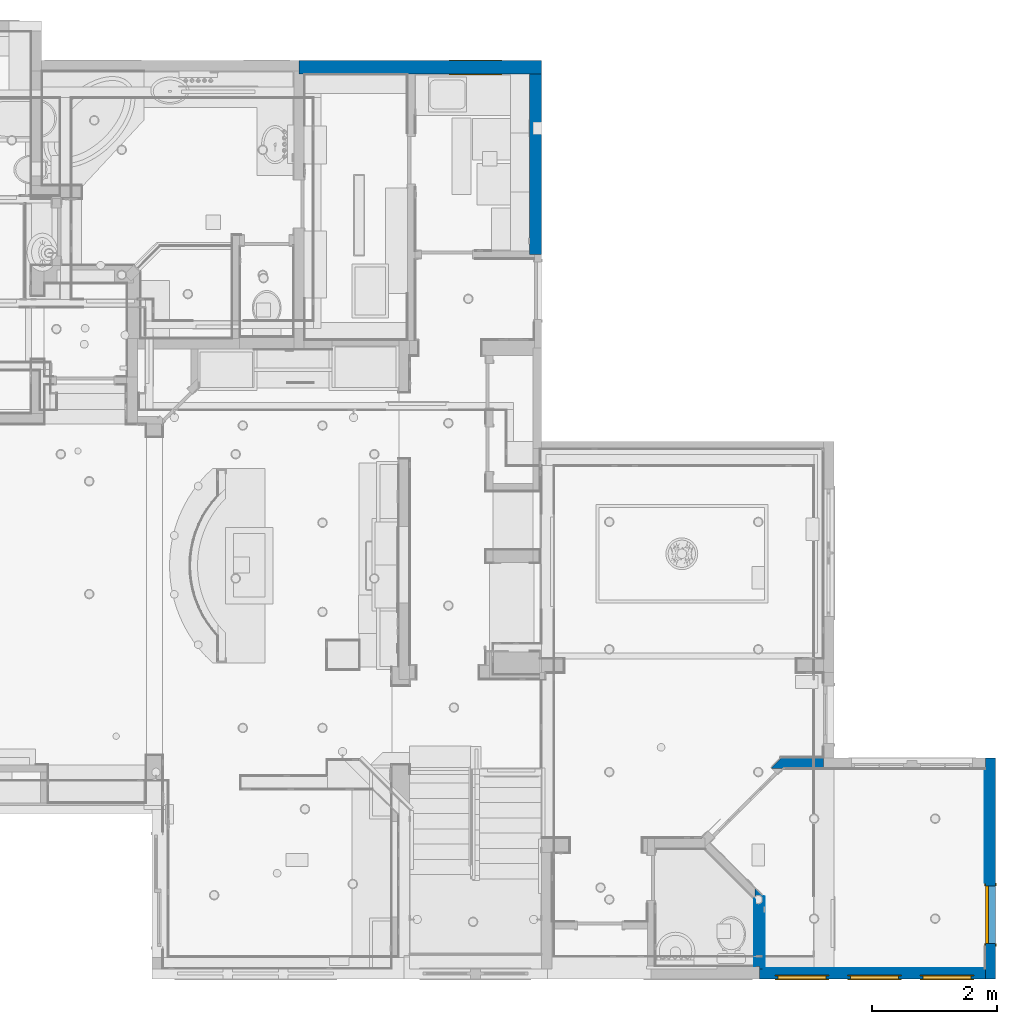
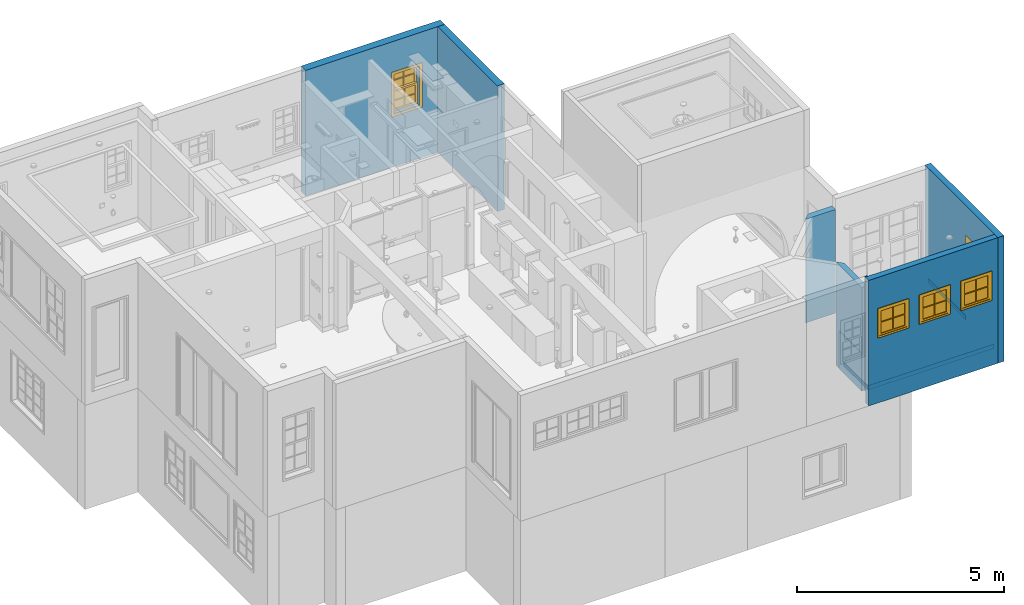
# One storey, part 14 of 81: 10 walls, 4 windows, 1 door, 10 openings.
"""IFC2X3 building model written with IfcOpenShell, lengths in feet."""

import ifcopenshell
import ifcopenshell.guid

model = None  # the IFC model being written
_history = None  # IfcOwnerHistory: only IFC2X3 demands one
_inside = {}  # id of a spatial element -> (the spatial element, [elements in it])
_under = {}  # id of a project, library or spatial element -> (it, [spatial elements below it])
_declared = {}  # id of a project -> (the project, [libraries it declares])
_typed = {}  # id of a type object -> (the type object, [elements of that type])
_made_of = {}  # id of a material, layer set ... -> (it, [elements and type objects made of it])


def new_model(schema):
    """Start an empty IFC model of exactly this schema.

    Asked for "IFC4X3", IfcOpenShell would pick the latest addendum, in which some entities
    have other attributes; the version numbers below select the first issue.
    IFC2X3 requires an IfcOwnerHistory on every rooted entity: one is made here for all.
    """
    global model, _history
    if schema == "IFC4X3":
        model = ifcopenshell.file(schema_version=(4, 3, 0, 0))
    else:
        model = ifcopenshell.file(schema=schema)
    _inside.clear()
    _under.clear()
    _declared.clear()
    _typed.clear()
    _made_of.clear()
    _history = None
    if model.schema == "IFC2X3":
        org = make("IfcOrganization", Name="unknown")
        user = make(
            "IfcPersonAndOrganization",
            ThePerson=make("IfcPerson", FamilyName="unknown"),
            TheOrganization=org,
        )
        app = make(
            "IfcApplication",
            ApplicationDeveloper=org,
            Version="unknown",
            ApplicationFullName="unknown",
            ApplicationIdentifier="unknown",
        )
        _history = make(
            "IfcOwnerHistory",
            OwningUser=user,
            OwningApplication=app,
            ChangeAction="ADDED",
            CreationDate=0,
        )
    return model


def make(cls, **values):
    """One entity of the class cls with the attributes given. An attribute that is None is left unset."""
    return model.create_entity(
        cls, **{name: value for name, value in values.items() if value is not None}
    )


def entity(cls, *values):
    """Any entity or typed value of the class cls, its attributes in the order of the schema. None: left unset."""
    e = model.create_entity(cls)
    for i, value in enumerate(values):
        if value is not None:
            e[i] = value
    return e


def rooted(cls, **values):
    """An entity with a GlobalId (a new one), such as an element, a storey or a relation."""
    return make(cls, GlobalId=ifcopenshell.guid.new(), OwnerHistory=_history, **values)


def si_unit(unit_type, name, prefix=None):
    """IfcSIUnit, for example si_unit("LENGTHUNIT", "METRE", prefix="MILLI")."""
    return make("IfcSIUnit", UnitType=unit_type, Prefix=prefix, Name=name)


def converted_unit(unit_type, name, factor, base, dimensions=None, offset=None):
    """IfcConversionBasedUnit, such as the inch: factor (a typed value) times the base unit."""
    return make(
        "IfcConversionBasedUnit"
        if offset is None
        else "IfcConversionBasedUnitWithOffset",
        ConversionOffset=offset,
        Dimensions=None
        if dimensions is None
        else entity("IfcDimensionalExponents", *dimensions),
        UnitType=unit_type,
        Name=name,
        ConversionFactor=make(
            "IfcMeasureWithUnit", ValueComponent=factor, UnitComponent=base
        ),
    )


def derived_unit(unit_type, elements):
    """IfcDerivedUnit: a product of units, each with its exponent."""
    return make(
        "IfcDerivedUnit",
        Elements=[
            make("IfcDerivedUnitElement", Unit=unit, Exponent=power)
            for unit, power in elements
        ],
        UnitType=unit_type,
    )


def assignment(units):
    """IfcUnitAssignment: the units of a project."""
    return None if units is None else make("IfcUnitAssignment", Units=units)


def point(xyz):
    """IfcCartesianPoint."""
    return None if xyz is None else make("IfcCartesianPoint", Coordinates=xyz)


def direction(xyz):
    """IfcDirection."""
    return None if xyz is None else make("IfcDirection", DirectionRatios=xyz)


def frame(location, z_axis=None, x_axis=None):
    """IfcAxis2Placement3D, a coordinate frame: its origin and axes. An axis left out is left unset."""
    return make(
        "IfcAxis2Placement3D",
        Location=point(location),
        Axis=direction(z_axis),
        RefDirection=direction(x_axis),
    )


def frame_2d(location, x_axis=None):
    """IfcAxis2Placement2D, a coordinate frame in the plane: its origin and x axis."""
    return make(
        "IfcAxis2Placement2D", Location=point(location), RefDirection=direction(x_axis)
    )


def origin():
    """The frame at (0, 0, 0) with its axes left unset."""
    return frame((0.0, 0.0, 0.0))


def origin_2d_with_axis():
    """The frame at (0, 0) in the plane with the x axis (1, 0) written out."""
    return frame_2d((0.0, 0.0), x_axis=(1.0, 0.0))


def place(relative_to, where):
    """IfcLocalPlacement: puts the frame where relative to a parent placement (None: the world)."""
    return make(
        "IfcLocalPlacement", PlacementRelTo=relative_to, RelativePlacement=where
    )


def context(
    kind, dimensions, precision=None, world=None, true_north=None, identifier=None
):
    """IfcGeometricRepresentationContext, for example the 3D "Model" context."""
    return make(
        "IfcGeometricRepresentationContext",
        ContextIdentifier=identifier,
        ContextType=kind,
        CoordinateSpaceDimension=dimensions,
        Precision=precision,
        WorldCoordinateSystem=world,
        TrueNorth=true_north,
    )


def subcontext(parent, identifier, kind, view, scale=None):
    """IfcGeometricRepresentationSubContext, for example "Body" below "Model"."""
    return make(
        "IfcGeometricRepresentationSubContext",
        ContextIdentifier=identifier,
        ContextType=kind,
        ParentContext=parent,
        TargetScale=scale,
        TargetView=view,
    )


def project(units=None, contexts=None):
    """IfcProject with its units and contexts."""
    return rooted(
        "IfcProject",
        Name="project",
        RepresentationContexts=contexts,
        UnitsInContext=assignment(units),
    )


def spatial(cls, under=None, at=None, **own):
    """A site, building, storey or space (cls), placed at a placement, below another one or the project."""
    s = rooted(cls, ObjectPlacement=at, **own)
    if under is not None:
        _under.setdefault(under.id(), (under, []))[1].append(s)
    return s


def polyline(points):
    """IfcPolyline through the points."""
    return make("IfcPolyline", Points=[point(p) for p in points])


def profile(cls, at=None, kind="AREA", **sizes):
    """A parametric profile (cls). Its sizes go by their IFC names, for example OverallWidth=200.0."""
    return make(cls, ProfileType=kind, Position=at, **sizes)


def rectangle(**sizes):
    """IfcRectangleProfileDef."""
    return profile("IfcRectangleProfileDef", **sizes)


def outline(outer, holes=None, kind="AREA"):
    """IfcArbitraryClosedProfileDef: a profile drawn as a closed curve; with holes, ...WithVoids."""
    if holes is None:
        return make("IfcArbitraryClosedProfileDef", ProfileType=kind, OuterCurve=outer)
    return make(
        "IfcArbitraryProfileDefWithVoids",
        ProfileType=kind,
        OuterCurve=outer,
        InnerCurves=holes,
    )


def extrude(swept, where, along, depth):
    """IfcExtrudedAreaSolid: the profile swept, set in the frame where, extruded along a direction by depth."""
    return make(
        "IfcExtrudedAreaSolid",
        SweptArea=swept,
        Position=where,
        ExtrudedDirection=direction(along),
        Depth=depth,
    )


def clip(a, b, op="DIFFERENCE"):
    """IfcBooleanClippingResult: the solid a cut by the half space b."""
    return make(
        "IfcBooleanClippingResult", Operator=op, FirstOperand=a, SecondOperand=b
    )


def bounded_halfspace(plane, agree, where, boundary):
    """IfcPolygonalBoundedHalfSpace: a half space limited to a polygon's prism."""
    return make(
        "IfcPolygonalBoundedHalfSpace",
        BaseSurface=make("IfcPlane", Position=plane),
        AgreementFlag=agree,
        Position=where,
        PolygonalBoundary=boundary,
    )


def shape(context_of_items, identifier, shape_type, items):
    """IfcShapeRepresentation: the items that make up one representation, for example the "Body"."""
    return make(
        "IfcShapeRepresentation",
        ContextOfItems=context_of_items,
        RepresentationIdentifier=identifier,
        RepresentationType=shape_type,
        Items=items,
    )


def source(mapping_origin, context_of_items, identifier, shape_type, items):
    """IfcRepresentationMap: a shape defined once, which mapped items show again and again."""
    return make(
        "IfcRepresentationMap",
        MappingOrigin=mapping_origin,
        MappedRepresentation=shape(context_of_items, identifier, shape_type, items),
    )


def transform(
    local_origin,
    x_axis=None,
    y_axis=None,
    z_axis=None,
    scale=None,
    scale2=None,
    scale3=None,
    uniform=True,
):
    """IfcCartesianTransformationOperator3D, or its non-uniform kind. x_axis, y_axis, z_axis: its Axis1, 2, 3."""
    if uniform:
        return make(
            "IfcCartesianTransformationOperator3D",
            Axis1=direction(x_axis),
            Axis2=direction(y_axis),
            LocalOrigin=point(local_origin),
            Scale=scale,
            Axis3=direction(z_axis),
        )
    return make(
        "IfcCartesianTransformationOperator3DnonUniform",
        Axis1=direction(x_axis),
        Axis2=direction(y_axis),
        LocalOrigin=point(local_origin),
        Scale=scale,
        Axis3=direction(z_axis),
        Scale2=scale2,
        Scale3=scale3,
    )


def mapped(mapping_source, mapping_target):
    """IfcMappedItem: shows the shape of a source again, moved by a transform."""
    return make(
        "IfcMappedItem", MappingSource=mapping_source, MappingTarget=mapping_target
    )


def material(Name=None, Category=None):
    """IfcMaterial."""
    return make("IfcMaterial", Name=Name, Category=Category)


def material_list(materials):
    """IfcMaterialList."""
    return make("IfcMaterialList", Materials=materials)


def layer(
    of_material, thickness, ventilated=None, Name=None, Category=None, Priority=None
):
    """IfcMaterialLayer: one layer of a wall or slab, of a material (None: an air gap)."""
    return make(
        "IfcMaterialLayer",
        Material=of_material,
        LayerThickness=thickness,
        IsVentilated=ventilated,
        Name=Name,
        Category=Category,
        Priority=Priority,
    )


def layer_set(layers, Name=None):
    """IfcMaterialLayerSet."""
    return make("IfcMaterialLayerSet", MaterialLayers=layers, LayerSetName=Name)


def layer_usage(for_layer_set, set_direction, sense, offset, extent=None):
    """IfcMaterialLayerSetUsage: how a layer set lies in its element."""
    return make(
        "IfcMaterialLayerSetUsage",
        ForLayerSet=for_layer_set,
        LayerSetDirection=set_direction,
        DirectionSense=sense,
        OffsetFromReferenceLine=offset,
        ReferenceExtent=extent,
    )


def made_of(thing, what):
    """Note that an element or type object is made of a material, layer set ...; save() writes the relation."""
    if what is not None:
        _made_of.setdefault(what.id(), (what, []))[1].append(thing)
    return thing


def type_object(cls, material=None, **own):
    """A type object (cls), such as IfcWallType, which elements share."""
    return made_of(rooted(cls, **own), material)


def type_shapes(of_type, sources):
    """Give a type object the sources (RepresentationMaps) that its elements show as mapped items."""
    of_type.RepresentationMaps = sources


def element(
    cls,
    number,
    at=None,
    inside=None,
    cuts=None,
    type_object=None,
    material=None,
    context=None,
    identifier="Body",
    shape_type=None,
    held_by="IfcProductDefinitionShape",
    body=None,
    shapes=None,
    **own,
):
    """One element of the class cls, such as IfcWall. Its Tag is "e" and its number.

    at: its placement. inside: the storey or other place that contains it. cuts: it is an
    opening in that element (IfcRelVoidsElement). A single representation is given by context,
    identifier, shape_type and body (its items); several are given by shapes. held_by: the class
    of the entity that holds the representations. save() writes the other relations.
    """
    e = rooted(cls, Tag="e%d" % number, ObjectPlacement=at, **own)
    if body is not None:
        shapes = [shape(context, identifier, shape_type, body)]
    if shapes is not None:
        e.Representation = make(held_by, Representations=shapes)
    if inside is not None:
        _inside.setdefault(inside.id(), (inside, []))[1].append(e)
    if cuts is not None:
        rooted(
            "IfcRelVoidsElement", RelatingBuildingElement=cuts, RelatedOpeningElement=e
        )
    if type_object is not None:
        _typed.setdefault(type_object.id(), (type_object, []))[1].append(e)
    return made_of(e, material)


def fill(opening, filler):
    """IfcRelFillsElement: the door or window that sits in an opening."""
    return rooted(
        "IfcRelFillsElement",
        RelatingOpeningElement=opening,
        RelatedBuildingElement=filler,
    )


def aggregate(whole, parts):
    """IfcRelAggregates: a whole, such as a stair, and the parts it consists of."""
    return rooted("IfcRelAggregates", RelatingObject=whole, RelatedObjects=parts)


def save(model, path):
    """Write the relations noted so far, then the file.

    IfcRelAggregates (storeys below a building ...), IfcRelContainedInSpatialStructure (elements
    in a storey), IfcRelDefinesByType, IfcRelAssociatesMaterial and IfcRelDeclares: one each for
    every whole, place, type object, material and project.
    """
    for whole, parts in _under.values():
        aggregate(whole, parts)
    for where, things in _inside.values():
        rooted(
            "IfcRelContainedInSpatialStructure",
            RelatedElements=things,
            RelatingStructure=where,
        )
    for kind, things in _typed.values():
        rooted("IfcRelDefinesByType", RelatedObjects=things, RelatingType=kind)
    for what, things in _made_of.values():
        rooted("IfcRelAssociatesMaterial", RelatedObjects=things, RelatingMaterial=what)
    for by, libraries in _declared.values():
        rooted("IfcRelDeclares", RelatingContext=by, RelatedDefinitions=libraries)
    model.write(path)


model = new_model("IFC2X3")

# Units and contexts
model_context = context("Model", 3, precision=0.0001, world=origin(), true_north=direction((6.12303176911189e-17, 1.0)))
body_context = subcontext(model_context, "Body", "Model", "MODEL_VIEW")
ifc_project = project(units=[converted_unit("LENGTHUNIT", "FOOT", entity("IfcRatioMeasure", 0.3048), si_unit("LENGTHUNIT", "METRE"), dimensions=[1, 0, 0, 0, 0, 0, 0]), converted_unit("AREAUNIT", "SQUARE FOOT", entity("IfcRatioMeasure", 0.09290304), si_unit("AREAUNIT", "SQUARE_METRE"), dimensions=[2, 0, 0, 0, 0, 0, 0]), converted_unit("VOLUMEUNIT", "CUBIC FOOT", entity("IfcRatioMeasure", 0.028316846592), si_unit("VOLUMEUNIT", "CUBIC_METRE"), dimensions=[3, 0, 0, 0, 0, 0, 0]), converted_unit("PLANEANGLEUNIT", "DEGREE", entity("IfcRatioMeasure", 0.0174532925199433), si_unit("PLANEANGLEUNIT", "RADIAN"), dimensions=[0, 0, 0, 0, 0, 0, 0]), si_unit("MASSUNIT", "GRAM", prefix="KILO"), derived_unit("MASSDENSITYUNIT", [(si_unit("MASSUNIT", "GRAM", prefix="KILO"), 1), (si_unit("LENGTHUNIT", "METRE"), -3)]), derived_unit("MOMENTOFINERTIAUNIT", [(si_unit("LENGTHUNIT", "METRE"), 4)]), si_unit("TIMEUNIT", "SECOND"), si_unit("FREQUENCYUNIT", "HERTZ"), si_unit("THERMODYNAMICTEMPERATUREUNIT", "DEGREE_CELSIUS"), derived_unit("THERMALTRANSMITTANCEUNIT", [(si_unit("MASSUNIT", "GRAM", prefix="KILO"), 1), (si_unit("THERMODYNAMICTEMPERATUREUNIT", "KELVIN"), -1), (si_unit("TIMEUNIT", "SECOND"), -3)]), derived_unit("VOLUMETRICFLOWRATEUNIT", [(si_unit("LENGTHUNIT", "METRE"), 3), (si_unit("TIMEUNIT", "SECOND"), -1)]), si_unit("ELECTRICCURRENTUNIT", "AMPERE"), si_unit("ELECTRICVOLTAGEUNIT", "VOLT"), si_unit("POWERUNIT", "WATT"), si_unit("FORCEUNIT", "NEWTON"), si_unit("ILLUMINANCEUNIT", "LUX"), si_unit("LUMINOUSFLUXUNIT", "LUMEN"), si_unit("LUMINOUSINTENSITYUNIT", "CANDELA"), derived_unit("USERDEFINED", [(si_unit("MASSUNIT", "GRAM", prefix="KILO"), -1), (si_unit("LENGTHUNIT", "METRE"), -2), (si_unit("TIMEUNIT", "SECOND"), 3), (si_unit("LUMINOUSFLUXUNIT", "LUMEN"), 1)]), derived_unit("LINEARVELOCITYUNIT", [(si_unit("LENGTHUNIT", "METRE"), 1), (si_unit("TIMEUNIT", "SECOND"), -1)]), si_unit("PRESSUREUNIT", "PASCAL"), derived_unit("USERDEFINED", [(si_unit("LENGTHUNIT", "METRE"), -2), (si_unit("MASSUNIT", "GRAM", prefix="KILO"), 1), (si_unit("TIMEUNIT", "SECOND"), -2)]), derived_unit("LINEARFORCEUNIT", [(si_unit("MASSUNIT", "GRAM", prefix="KILO"), 1), (si_unit("LENGTHUNIT", "METRE"), 1), (si_unit("TIMEUNIT", "SECOND"), -2), (si_unit("LENGTHUNIT", "METRE"), -1)]), derived_unit("PLANARFORCEUNIT", [(si_unit("MASSUNIT", "GRAM", prefix="KILO"), 1), (si_unit("LENGTHUNIT", "METRE"), 1), (si_unit("TIMEUNIT", "SECOND"), -2), (si_unit("LENGTHUNIT", "METRE"), -2)])], contexts=[model_context])

# Site, building, storey
site_placement = place(None, origin())
site = spatial("IfcSite", under=ifc_project, at=site_placement, Name="Default", CompositionType="ELEMENT")
building_placement = place(site_placement, origin())
building = spatial("IfcBuilding", under=site, at=building_placement, CompositionType="ELEMENT")
storey_placement = place(building_placement, origin())
storey = spatial("IfcBuildingStorey", under=building, at=storey_placement, Name="First floor", CompositionType="ELEMENT", Elevation=0.0)

# Wall, opening, door
ifc_material_1 = material(Name="Default New Material")
ifc_layer_1 = layer(ifc_material_1, 0.541666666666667)
ifc_layer_set_1 = layer_set([ifc_layer_1], Name="Basic Wall:Wall_6.5\"")
ifc_layer_usage_1 = layer_usage(ifc_layer_set_1, "AXIS2", "NEGATIVE", 0.270833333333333)
wall_type_1 = type_object("IfcWallType", Name="Basic Wall:Wall_6.5\"", PredefinedType="STANDARD", material=ifc_layer_set_1)
wall_1_placement = place(storey_placement, frame((43.8541666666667, 11.5625, 9.54166666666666), z_axis=(0.0, 0.0, 1.0), x_axis=(0.0, -1.0, 0.0)))
wall_1 = element("IfcWallStandardCase", 1, at=wall_1_placement, inside=storey, type_object=wall_type_1, material=ifc_layer_usage_1, Name="Basic Wall:Wall_6.5\"", ObjectType="Basic Wall:Wall_6.5\"", context=body_context, shape_type="SweptSolid", body=[
    extrude(rectangle(XDim=11.5625, YDim=0.541666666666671, at=frame_2d((5.78125000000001, 7.21644966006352e-16), x_axis=(-1.0, 0.0))), origin(), (0.0, 0.0, 1.0), 12.125),
])
opening_1_placement = place(wall_1_placement, frame((9.68750000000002, 0.27083333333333, 1.125)))
opening_1 = element("IfcOpeningElement", 2, at=opening_1_placement, cuts=wall_1, Name="Door_1:3'-0\" X 8'-0\":1", ObjectType="Opening", context=body_context, shape_type="SweptSolid", body=[
    extrude(rectangle(XDim=3.0, YDim=8.0, at=frame_2d((4.0, 1.5), x_axis=(0.0, -1.0))), frame((0.0, 0.0, 0.0), z_axis=(0.0, -1.0, 0.0), x_axis=(0.0, 0.0, 1.0)), (0.0, 0.0, 1.0), 0.541666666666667),
])
ifc_material_list_1 = material_list([ifc_material_1, ifc_material_1])
door_style = type_object("IfcDoorStyle", Name="Door_1:3'-0\" X 8'-0\"", ConstructionType="NOTDEFINED", OperationType="SINGLE_SWING_LEFT", ParameterTakesPrecedence=False, Sizeable=False, material=ifc_material_list_1)
shared_shape_1 = source(origin(), body_context, "Body", "SweptSolid", [
    extrude(outline(polyline([(-1.66666666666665, -4.125), (1.66666666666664, -4.125), (1.66666666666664, 4.04166666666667), (1.50000000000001, 4.04166666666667), (1.50000000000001, -3.95833333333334), (-1.49999999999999, -3.95833333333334), (-1.49999999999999, 4.04166666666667), (-1.66666666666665, 4.04166666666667), (-1.66666666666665, -4.125)])), frame((1.50000000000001, 0.583333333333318, 4.04166666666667), z_axis=(0.0, -1.0, 0.0), x_axis=(-1.0, 0.0, 0.0)), (0.0, 0.0, 1.0), 0.0416666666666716),
    extrude(outline(polyline([(-4.125, -1.66666666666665), (4.04166666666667, -1.66666666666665), (4.04166666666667, -1.49999999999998), (-3.95833333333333, -1.49999999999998), (-3.95833333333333, 1.49999999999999), (4.04166666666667, 1.49999999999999), (4.04166666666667, 1.66666666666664), (-4.125, 1.66666666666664), (-4.125, -1.66666666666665)])), frame((1.50000000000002, 0.0, 4.04166666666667), z_axis=(0.0, -1.0, 0.0), x_axis=(0.0, 0.0, -1.0)), (0.0, 0.0, 1.0), 0.0416666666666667),
    extrude(rectangle(XDim=3.0, YDim=0.166666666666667, at=origin_2d_with_axis()), frame((1.5, 0.458333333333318, 0.0)), (0.0, 0.0, 1.0), 8.0),
])
type_shapes(door_style, [shared_shape_1])
door_placement = place(opening_1_placement, frame((0.0, 0.0, 0.0), z_axis=(0.0, 0.0, 1.0), x_axis=(-1.0, 0.0, 0.0)))
door = element("IfcDoor", 3, at=door_placement, inside=storey, type_object=door_style, material=ifc_material_1, Name="Door_1:3'-0\" X 8'-0\"", ObjectType="Door_1:3'-0\" X 8'-0\"", OverallHeight=8.0, OverallWidth=3.0, context=body_context, shape_type="MappedRepresentation", body=[
    mapped(shared_shape_1, transform((0.0, 0.0, 0.0), scale=1.0)),
])
fill(opening_1, door)

# Wall, openings, windows
ifc_layer_usage_2 = layer_usage(ifc_layer_set_1, "AXIS2", "NEGATIVE", 0.270833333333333)
wall_2_placement = place(storey_placement, frame((43.5833333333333, 0.270833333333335, 9.54166666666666), z_axis=(0.0, 0.0, 1.0), x_axis=(-1.0, 0.0, 0.0)))
wall_2 = element("IfcWallStandardCase", 4, at=wall_2_placement, inside=storey, type_object=wall_type_1, material=ifc_layer_usage_2, Name="Basic Wall:Wall_6.5\"", ObjectType="Basic Wall:Wall_6.5\"", context=body_context, shape_type="SweptSolid", body=[
    extrude(rectangle(XDim=11.8125, YDim=0.541666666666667, at=frame_2d((5.90625, -2.77555756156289e-17), x_axis=(-1.0, 0.0))), origin(), (0.0, 0.0, 1.0), 12.125),
])
opening_2_placement = place(wall_2_placement, origin())
element("IfcOpeningElement", 5, at=opening_2_placement, cuts=wall_2, Name="Basic Wall:Wall_6.5\"", ObjectType="Recess", context=body_context, shape_type="SweptSolid", body=[
    extrude(rectangle(XDim=3.16666666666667, YDim=3.16666666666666, at=frame_2d((-8.88178419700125e-16, -3.5527136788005e-15), x_axis=(1.0, 0.0))), frame((5.79166666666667, -0.270833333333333, 7.70833333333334), z_axis=(0.0, 1.0, 0.0), x_axis=(0.0, 0.0, 1.0)), (0.0, 0.0, 1.0), 0.375),
])
opening_3_placement = place(wall_2_placement, origin())
element("IfcOpeningElement", 6, at=opening_3_placement, cuts=wall_2, Name="Basic Wall:Wall_6.5\"", ObjectType="Recess", context=body_context, shape_type="SweptSolid", body=[
    extrude(rectangle(XDim=3.16666666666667, YDim=3.16666666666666, at=frame_2d((3.5527136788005e-15, -8.88178419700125e-16), x_axis=(0.0, 1.0))), frame((9.58333333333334, -0.270833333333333, 7.70833333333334), z_axis=(0.0, 1.0, 0.0), x_axis=(-1.0, 0.0, 0.0)), (0.0, 0.0, 1.0), 0.375),
])
opening_4_placement = place(wall_2_placement, origin())
element("IfcOpeningElement", 7, at=opening_4_placement, cuts=wall_2, Name="Basic Wall:Wall_6.5\"", ObjectType="Recess", context=body_context, shape_type="SweptSolid", body=[
    extrude(rectangle(XDim=3.16666666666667, YDim=3.16666666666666, at=frame_2d((-3.5527136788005e-15, 8.88178419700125e-16), x_axis=(0.0, 1.0))), frame((2.0, -0.270833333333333, 7.70833333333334), z_axis=(0.0, 1.0, 0.0), x_axis=(1.0, 0.0, 0.0)), (0.0, 0.0, 1.0), 0.375),
])
opening_5_placement = place(wall_2_placement, frame((0.749999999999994, -0.270833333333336, 6.45833333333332)))
opening_5 = element("IfcOpeningElement", 8, at=opening_5_placement, cuts=wall_2, Name="Window_5:2'-6\" X 2'-6\":1", ObjectType="Opening", context=body_context, shape_type="SweptSolid", body=[
    extrude(rectangle(XDim=2.5, YDim=2.5, at=frame_2d((1.25, 1.25), x_axis=(-1.0, 0.0))), frame((0.0, 0.0, 0.0), z_axis=(0.0, 1.0, 0.0), x_axis=(0.0, 0.0, 1.0)), (0.0, 0.0, 1.0), 0.541666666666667),
])
opening_6_placement = place(wall_2_placement, frame((4.54166666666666, -0.270833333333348, 6.45833333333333)))
opening_6 = element("IfcOpeningElement", 9, at=opening_6_placement, cuts=wall_2, Name="Window_5:2'-6\" X 2'-6\":1", ObjectType="Opening", context=body_context, shape_type="SweptSolid", body=[
    extrude(rectangle(XDim=2.5, YDim=2.5, at=frame_2d((1.25, 1.25), x_axis=(-1.0, 0.0))), frame((0.0, 0.0, 0.0), z_axis=(0.0, 1.0, 0.0), x_axis=(0.0, 0.0, 1.0)), (0.0, 0.0, 1.0), 0.541666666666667),
])
opening_7_placement = place(wall_2_placement, frame((8.33333333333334, -0.27083333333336, 6.45833333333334)))
opening_7 = element("IfcOpeningElement", 10, at=opening_7_placement, cuts=wall_2, Name="Window_5:2'-6\" X 2'-6\":1", ObjectType="Opening", context=body_context, shape_type="SweptSolid", body=[
    extrude(rectangle(XDim=2.5, YDim=2.5, at=frame_2d((1.25, 1.25), x_axis=(-1.0, 0.0))), frame((0.0, 0.0, 0.0), z_axis=(0.0, 1.0, 0.0), x_axis=(0.0, 0.0, 1.0)), (0.0, 0.0, 1.0), 0.541666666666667),
])
ifc_material_2 = material(Name="Glass")
ifc_material_list_2 = material_list([ifc_material_2, ifc_material_1])
window_style_1 = type_object("IfcWindowStyle", Name="Window_5:2'-6\" X 2'-6\"", ConstructionType="NOTDEFINED", OperationType="NOTDEFINED", ParameterTakesPrecedence=False, Sizeable=False, material=ifc_material_2)
shared_shape_2 = source(origin(), body_context, "Body", "SweptSolid", [
    extrude(rectangle(XDim=1.0625, YDim=0.0416666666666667, at=frame_2d((0.0, -1.38777878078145e-17), x_axis=(1.0, 0.0))), frame((0.614583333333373, 0.458333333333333, 1.27083333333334)), (0.0, 0.0, 1.0), 1.06250000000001),
    extrude(rectangle(XDim=1.06249999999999, YDim=0.0416666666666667, at=frame_2d((0.0, -1.38777878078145e-17), x_axis=(1.0, 0.0))), frame((0.614583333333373, 0.458333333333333, 0.166666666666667)), (0.0, 0.0, 1.0), 1.0625),
    extrude(rectangle(XDim=1.0625, YDim=0.0416666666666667, at=frame_2d((0.0, -1.38777878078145e-17), x_axis=(1.0, 0.0))), frame((1.71875000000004, 0.458333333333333, 0.166666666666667)), (0.0, 0.0, 1.0), 1.0625),
    extrude(rectangle(XDim=1.0625, YDim=0.0416666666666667, at=frame_2d((0.0, -1.38777878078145e-17), x_axis=(1.0, 0.0))), frame((1.71875000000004, 0.458333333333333, 1.27083333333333)), (0.0, 0.0, 1.0), 1.06250000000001),
    extrude(outline(polyline([(-1.25, -1.25000000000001), (1.25, -1.25000000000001), (1.25, 1.25000000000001), (-1.25, 1.25000000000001), (-1.25, -1.25000000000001)]), holes=[polyline([(-1.08333333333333, -0.0208333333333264), (-0.020833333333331, -0.0208333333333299), (-0.0208333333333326, -1.08333333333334), (-1.08333333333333, -1.08333333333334), (-1.08333333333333, -0.0208333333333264)]), polyline([(0.0208333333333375, 1.08333333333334), (1.08333333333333, 1.08333333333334), (1.08333333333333, 0.0208333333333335), (0.0208333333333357, 0.020833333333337), (0.0208333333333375, 1.08333333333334)]), polyline([(-0.0208333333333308, 0.020833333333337), (-1.08333333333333, 0.0208333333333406), (-1.08333333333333, 1.08333333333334), (-0.0208333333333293, 1.08333333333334), (-0.0208333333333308, 0.020833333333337)]), polyline([(0.0208333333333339, -1.08333333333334), (0.0208333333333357, -0.0208333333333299), (1.08333333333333, -0.0208333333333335), (1.08333333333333, -1.08333333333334), (0.0208333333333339, -1.08333333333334)])]), frame((1.16666666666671, 0.541666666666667, 1.25000000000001), z_axis=(0.0, -1.0, 0.0), x_axis=(-1.0, 0.0, 0.0)), (0.0, 0.0, 1.0), 0.166666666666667),
    extrude(outline(polyline([(-1.41666666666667, -1.41666666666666), (1.41666666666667, -1.41666666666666), (1.41666666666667, 1.41666666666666), (-1.41666666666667, 1.41666666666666), (-1.41666666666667, -1.41666666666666)]), holes=[polyline([(-1.25, -1.25), (-1.25, 1.25), (1.25, 1.25), (1.25, -1.25), (-1.25, -1.25)])]), frame((1.16666666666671, 0.583333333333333, 1.25), z_axis=(0.0, -1.0, 0.0), x_axis=(-1.0, 0.0, 0.0)), (0.0, 0.0, 1.0), 0.0416666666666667),
    extrude(outline(polyline([(-1.41666666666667, -1.41666666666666), (1.41666666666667, -1.41666666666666), (1.41666666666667, 1.41666666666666), (-1.41666666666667, 1.41666666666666), (-1.41666666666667, -1.41666666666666)]), holes=[polyline([(1.25, 1.25), (1.25, -1.25), (-1.25, -1.25), (-1.25, 1.25), (1.25, 1.25)])]), frame((1.16666666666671, 0.375, 1.25), z_axis=(0.0, -1.0, 0.0), x_axis=(-1.0, 0.0, 0.0)), (0.0, 0.0, 1.0), 0.0416666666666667),
])
type_shapes(window_style_1, [shared_shape_2])
window_1_placement = place(opening_6_placement, frame((0.0833333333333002, 0.0, 0.0)))
window_1 = element("IfcWindow", 11, at=window_1_placement, inside=storey, type_object=window_style_1, material=ifc_material_list_2, Name="Window_5:2'-6\" X 2'-6\"", ObjectType="Window_5:2'-6\" X 2'-6\"", OverallHeight=2.5, OverallWidth=2.5, context=body_context, shape_type="MappedRepresentation", body=[
    mapped(shared_shape_2, transform((0.0, 0.0, 0.0), scale=1.0)),
])
fill(opening_6, window_1)
ifc_material_list_3 = material_list([ifc_material_2, ifc_material_1])
window_2_placement = place(opening_5_placement, frame((0.0833333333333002, 0.0, 0.0)))
window_2 = element("IfcWindow", 12, at=window_2_placement, inside=storey, type_object=window_style_1, material=ifc_material_list_3, Name="Window_5:2'-6\" X 2'-6\"", ObjectType="Window_5:2'-6\" X 2'-6\"", OverallHeight=2.5, OverallWidth=2.5, context=body_context, shape_type="MappedRepresentation", body=[
    mapped(shared_shape_2, transform((0.0, 0.0, 0.0), scale=1.0)),
])
fill(opening_5, window_2)
ifc_material_list_4 = material_list([ifc_material_2, ifc_material_1])
window_3_placement = place(opening_7_placement, frame((0.0833333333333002, 0.0, 0.0)))
window_3 = element("IfcWindow", 13, at=window_3_placement, inside=storey, type_object=window_style_1, material=ifc_material_list_4, Name="Window_5:2'-6\" X 2'-6\"", ObjectType="Window_5:2'-6\" X 2'-6\"", OverallHeight=2.5, OverallWidth=2.5, context=body_context, shape_type="MappedRepresentation", body=[
    mapped(shared_shape_2, transform((0.0, 0.0, 0.0), scale=1.0)),
])
fill(opening_7, window_3)

# Wall, opening, window
ifc_layer_2 = layer(ifc_material_1, 0.708333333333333)
ifc_layer_set_2 = layer_set([ifc_layer_2], Name="Basic Wall:Wall_8.5\"")
ifc_layer_usage_3 = layer_usage(ifc_layer_set_2, "AXIS2", "NEGATIVE", 0.354166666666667)
wall_type_2 = type_object("IfcWallType", Name="Basic Wall:Wall_8.5\"", PredefinedType="STANDARD", material=ifc_layer_set_2)
wall_3_placement = place(storey_placement, frame((7.68749999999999, 47.6871548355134, 9.54166666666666)))
wall_3 = element("IfcWallStandardCase", 14, at=wall_3_placement, inside=storey, type_object=wall_type_2, material=ifc_layer_usage_3, Name="Basic Wall:Wall_8.5\"", ObjectType="Basic Wall:Wall_8.5\"", context=body_context, shape_type="SweptSolid", body=[
    extrude(rectangle(XDim=12.6875, YDim=0.708333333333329, at=frame_2d((6.34375, 6.10622663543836e-16), x_axis=(-1.0, 0.0))), origin(), (0.0, 0.0, 1.0), 12.125),
])
opening_8_placement = place(wall_3_placement, frame((8.06249999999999, -0.354166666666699, 5.125)))
opening_8 = element("IfcOpeningElement", 15, at=opening_8_placement, cuts=wall_3, Name="Window_4:2'-4\" X 3'-10\":1", ObjectType="Opening", context=body_context, shape_type="SweptSolid", body=[
    extrude(rectangle(XDim=3.83333333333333, YDim=2.33333333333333, at=frame_2d((1.91666666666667, 1.16666666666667), x_axis=(-1.0, 0.0))), frame((0.0, 0.0, 0.0), z_axis=(0.0, 1.0, 0.0), x_axis=(0.0, 0.0, 1.0)), (0.0, 0.0, 1.0), 0.708333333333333),
])
ifc_material_list_5 = material_list([ifc_material_2, ifc_material_1])
ifc_material_3 = material(Name="Trim")
ifc_material_4 = material(Name="Sash")
ifc_material_list_6 = material_list([ifc_material_3, ifc_material_2, ifc_material_3, ifc_material_4])
window_style_2 = type_object("IfcWindowStyle", Name="Window_4:2'-4\" X 3'-10\"", ConstructionType="NOTDEFINED", OperationType="NOTDEFINED", ParameterTakesPrecedence=False, Sizeable=False, material=ifc_material_list_6)
shared_shape_3 = source(origin(), body_context, "Body", "SweptSolid", [
    extrude(rectangle(XDim=0.975260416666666, YDim=0.0435871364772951, at=origin_2d_with_axis()), frame((0.65429687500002, 0.584293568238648, 2.8515625)), (0.0, 0.0, 1.0), 0.815104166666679),
    extrude(rectangle(XDim=0.975260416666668, YDim=0.0435871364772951, at=frame_2d((5.55111512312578e-17, 0.0), x_axis=(1.0, 0.0))), frame((1.67903645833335, 0.584293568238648, 2.8515625)), (0.0, 0.0, 1.0), 0.815104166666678),
    extrude(rectangle(XDim=0.975260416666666, YDim=0.0435871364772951, at=origin_2d_with_axis()), frame((0.65429687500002, 0.584293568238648, 2.01041666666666)), (0.0, 0.0, 1.0), 0.791666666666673),
    extrude(rectangle(XDim=0.975260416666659, YDim=0.0435871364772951, at=origin_2d_with_axis()), frame((1.67903645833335, 0.584293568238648, 2.01041666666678)), (0.0, 0.0, 1.0), 0.791666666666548),
    extrude(outline(polyline([(-1.16666666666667, -0.994791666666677), (1.16666666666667, -0.994791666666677), (1.16666666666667, 0.994791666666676), (-1.16666666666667, 0.994791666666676), (-1.16666666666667, -0.994791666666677)]), holes=[polyline([(0.024739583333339, -0.828125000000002), (0.024739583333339, -0.0130208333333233), (1.0, -0.0130208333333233), (1.0, -0.828125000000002), (0.024739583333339, -0.828125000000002)]), polyline([(0.0247395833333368, 0.828125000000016), (1.0, 0.828125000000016), (1.0, 0.0364583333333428), (0.0247395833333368, 0.0364583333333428), (0.0247395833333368, 0.828125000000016)]), polyline([(-1.0, -0.0130208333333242), (-0.0247395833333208, -0.0130208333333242), (-0.0247395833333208, -0.828125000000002), (-1.0, -0.828125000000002), (-1.0, -0.0130208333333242)]), polyline([(-1.0, 0.828124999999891), (-0.0247395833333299, 0.828124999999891), (-0.0247395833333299, 0.0364583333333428), (-1.0, 0.0364583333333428), (-1.0, 0.828124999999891)])]), frame((1.16666666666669, 0.666666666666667, 2.83854166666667), z_axis=(0.0, -1.0, 0.0), x_axis=(-1.0, 0.0, 0.0)), (0.0, 0.0, 1.0), 0.166666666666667),
    extrude(rectangle(XDim=0.975260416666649, YDim=0.0416666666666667, at=origin_2d_with_axis()), frame((1.67903645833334, 0.416666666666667, 0.166666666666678), z_axis=(0.0, 0.0, 1.0), x_axis=(-1.0, 0.0, 0.0)), (0.0, 0.0, 1.0), 0.791666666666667),
    extrude(rectangle(XDim=0.975260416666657, YDim=0.0416666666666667, at=origin_2d_with_axis()), frame((0.654296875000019, 0.416666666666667, 1.00781250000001), z_axis=(0.0, 0.0, 1.0), x_axis=(-1.0, 0.0, 0.0)), (0.0, 0.0, 1.0), 0.835937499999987),
    extrude(rectangle(XDim=0.975260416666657, YDim=0.0416666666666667, at=origin_2d_with_axis()), frame((0.654296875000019, 0.416666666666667, 0.166666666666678), z_axis=(0.0, 0.0, 1.0), x_axis=(-1.0, 0.0, 0.0)), (0.0, 0.0, 1.0), 0.791666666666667),
    extrude(rectangle(XDim=0.975260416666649, YDim=0.0416666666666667, at=origin_2d_with_axis()), frame((1.67903645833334, 0.416666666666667, 1.00781250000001), z_axis=(0.0, 0.0, 1.0), x_axis=(-1.0, 0.0, 0.0)), (0.0, 0.0, 1.0), 0.835937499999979),
    extrude(outline(polyline([(-1.16666666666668, -1.00520833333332), (1.16666666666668, -1.00520833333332), (1.16666666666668, 1.00520833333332), (-1.16666666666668, 1.00520833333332), (-1.16666666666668, -1.00520833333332)]), holes=[polyline([(-1.0, -0.0026041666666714), (-0.0247395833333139, -0.0026041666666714), (-0.0247395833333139, -0.83854166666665), (-1.0, -0.83854166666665), (-1.0, -0.0026041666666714)]), polyline([(0.0247395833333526, 0.838541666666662), (1.0, 0.838541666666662), (1.0, 0.0468749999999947), (0.0247395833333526, 0.0468749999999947), (0.0247395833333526, 0.838541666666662)]), polyline([(-1.0, 0.838541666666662), (-0.0247395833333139, 0.838541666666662), (-0.0247395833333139, 0.0468749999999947), (-1.0, 0.0468749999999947), (-1.0, 0.838541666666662)]), polyline([(0.0247395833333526, -0.83854166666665), (0.0247395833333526, -0.00260416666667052), (1.0, -0.00260416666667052), (1.0, -0.83854166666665), (0.0247395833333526, -0.83854166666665)])]), frame((1.1666666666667, 0.5, 1.00520833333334), z_axis=(0.0, -1.0, 0.0), x_axis=(-1.0, 0.0, 0.0)), (0.0, 0.0, 1.0), 0.166666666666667),
    extrude(outline(polyline([(-1.39583333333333, -2.14583333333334), (1.39583333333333, -2.14583333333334), (1.39583333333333, 2.14583333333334), (-1.39583333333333, 2.14583333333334), (-1.39583333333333, -2.14583333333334)]), holes=[polyline([(-1.16666666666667, -1.91666666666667), (-1.16666666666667, 1.91666666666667), (1.16666666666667, 1.91666666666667), (1.16666666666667, -1.91666666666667), (-1.16666666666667, -1.91666666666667)])]), frame((1.16666666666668, 0.0, 1.91666666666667), z_axis=(0.0, -1.0, 0.0), x_axis=(1.0, 0.0, 0.0)), (0.0, 0.0, 1.0), 0.0416666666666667),
    extrude(outline(polyline([(-1.39583333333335, -2.14583333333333), (1.39583333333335, -2.14583333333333), (1.39583333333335, 2.14583333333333), (-1.39583333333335, 2.14583333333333), (-1.39583333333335, -2.14583333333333)]), holes=[polyline([(-1.16666666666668, -1.91666666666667), (-1.16666666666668, 1.91666666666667), (1.16666666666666, 1.91666666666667), (1.16666666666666, -1.91666666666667), (-1.16666666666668, -1.91666666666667)])]), frame((1.1666666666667, 0.75, 1.91666666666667), z_axis=(0.0, -1.0, 0.0), x_axis=(1.0, 0.0, 0.0)), (0.0, 0.0, 1.0), 0.0416666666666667),
])
type_shapes(window_style_2, [shared_shape_3])
window_4_placement = place(opening_8_placement, origin())
window_4 = element("IfcWindow", 16, at=window_4_placement, inside=storey, type_object=window_style_2, material=ifc_material_list_5, Name="Window_4:2'-4\" X 3'-10\"", ObjectType="Window_4:2'-4\" X 3'-10\"", OverallHeight=3.83333333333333, OverallWidth=2.33333333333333, context=body_context, shape_type="MappedRepresentation", body=[
    mapped(shared_shape_3, transform((0.0, 0.0, 0.0), scale=1.0)),
])
fill(opening_8, window_4)

# Wall, opening
ifc_layer_3 = layer(ifc_material_1, 0.625)
ifc_layer_set_3 = layer_set([ifc_layer_3], Name="Basic Wall:Wall_7.5\"")
ifc_layer_usage_4 = layer_usage(ifc_layer_set_3, "AXIS2", "NEGATIVE", 0.3125)
wall_type_3 = type_object("IfcWallType", Name="Basic Wall:Wall_7.5\"", PredefinedType="STANDARD", material=ifc_layer_set_3)
wall_4_placement = place(storey_placement, frame((20.0625, 47.3329881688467, 9.54166666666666), z_axis=(0.0, 0.0, 1.0), x_axis=(0.0, -1.0, 0.0)))
wall_4 = element("IfcWallStandardCase", 17, at=wall_4_placement, inside=storey, type_object=wall_type_3, material=ifc_layer_usage_4, Name="Basic Wall:Wall_7.5\"", ObjectType="Basic Wall:Wall_7.5\"", context=body_context, shape_type="SweptSolid", body=[
    extrude(rectangle(XDim=9.43749999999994, YDim=0.625, at=frame_2d((4.71874999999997, -1.38777878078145e-16), x_axis=(-1.0, 0.0))), origin(), (0.0, 0.0, 1.0), 12.125),
])
opening_9_placement = place(wall_4_placement, origin())
element("IfcOpeningElement", 18, at=opening_9_placement, cuts=wall_4, Name="Basic Wall:Wall_7.5\"", ObjectType="Opening", context=body_context, shape_type="SweptSolid", body=[
    extrude(rectangle(XDim=0.5, YDim=0.666666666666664, at=frame_2d((0.0, -3.5527136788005e-15), x_axis=(1.0, 0.0))), frame((2.83333333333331, -4.6875, 4.45833333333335), z_axis=(0.0, 1.0, 0.0), x_axis=(0.0, 0.0, 1.0)), (0.0, 0.0, 1.0), 10.0),
])

# Wall
ifc_layer_4 = layer(ifc_material_1, 0.458333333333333)
ifc_layer_set_4 = layer_set([ifc_layer_4], Name="Basic Wall:Wall_5.5\"")
ifc_layer_usage_5 = layer_usage(ifc_layer_set_4, "AXIS2", "POSITIVE", -0.229166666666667)
wall_type_4 = type_object("IfcWallType", Name="Basic Wall:Wall_5.5\"", PredefinedType="STANDARD", material=ifc_layer_set_4)
wall_5_placement = place(storey_placement, frame((31.7708333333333, 0.541666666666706, 10.6666666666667), z_axis=(0.0, 0.0, 1.0), x_axis=(0.0, 1.0, 0.0)))
element("IfcWallStandardCase", 19, at=wall_5_placement, inside=storey, type_object=wall_type_4, material=ifc_layer_usage_5, Name="Basic Wall:Wall_5.5\"", ObjectType="Basic Wall:Wall_5.5\"", context=body_context, shape_type="Clipping", body=[
    clip(clip(extrude(outline(polyline([(3.74999999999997, -0.229166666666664), (4.2083333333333, 0.229166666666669), (3.67800324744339, 0.229166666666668), (3.61907768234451, 0.229166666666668), (0.124999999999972, 0.229166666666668), (0.124999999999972, 0.0), (0.0, 0.0), (0.0, -0.229166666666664), (0.0416666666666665, -0.229166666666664), (3.74999999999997, -0.229166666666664)])), origin(), (0.0, 0.0, 1.0), 11.0), bounded_halfspace(frame((0.124999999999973, 0.0, 10.0), z_axis=(0.0, 0.0, -1.0), x_axis=(0.0, -1.0, 0.0)), True, frame((0.124999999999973, 0.0, 10.0), z_axis=(0.0, 0.0, -1.0), x_axis=(0.0, -1.0, 0.0)), polyline([(0.0, 0.0), (-0.229166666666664, 0.0), (-0.229166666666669, -3.55300324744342), (-0.229166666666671, -4.08333333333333), (0.229166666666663, -3.625), (0.229166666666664, 0.0), (0.0, 0.0)]))), bounded_halfspace(frame((0.124999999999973, -0.229166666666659, 10.0), z_axis=(-1.0, 0.0, 0.0), x_axis=(0.0, 0.0, -1.0)), True, frame((0.124999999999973, -0.229166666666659, 10.0), z_axis=(-1.0, 0.0, 0.0), x_axis=(0.0, 0.0, -1.0)), polyline([(0.0, 0.0), (-1.0, 0.0), (-1.0, -0.229166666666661), (0.0, -0.229166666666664), (0.0, 0.0)]))),
])

# Wall, opening
ifc_layer_5 = layer(ifc_material_1, 0.5625)
ifc_layer_set_5 = layer_set([ifc_layer_5], Name="Basic Wall:Wall_6.75\"")
ifc_layer_usage_6 = layer_usage(ifc_layer_set_5, "AXIS2", "POSITIVE", -0.28125)
wall_type_5 = type_object("IfcWallType", Name="Basic Wall:Wall_6.75\"", PredefinedType="STANDARD", material=ifc_layer_set_5)
wall_6_placement = place(storey_placement, frame((35.125, 11.3020833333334, 10.6666666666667), z_axis=(0.0, 0.0, 1.0), x_axis=(-1.0, 0.0, 0.0)))
wall_6 = element("IfcWallStandardCase", 20, at=wall_6_placement, inside=storey, type_object=wall_type_5, material=ifc_layer_usage_6, Name="Basic Wall:Wall_6.75\"", ObjectType="Basic Wall:Wall_6.75\"", context=body_context, shape_type="SweptSolid", body=[
    extrude(outline(polyline([(2.21204380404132, -0.28125), (2.74380017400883, 0.253557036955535), (2.71594833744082, 0.28125), (2.12499999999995, 0.28125), (0.0, 0.28125), (0.0, -0.28125), (0.0416666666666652, -0.28125), (2.21204380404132, -0.28125)])), origin(), (0.0, 0.0, 1.0), 10.0),
])
opening_10_placement = place(wall_6_placement, origin())
element("IfcOpeningElement", 21, at=opening_10_placement, cuts=wall_6, Name="Basic Wall:Wall_6.75\"", ObjectType="Opening", context=body_context, shape_type="SweptSolid", body=[
    extrude(rectangle(XDim=8.0, YDim=0.458333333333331, at=frame_2d((-3.76088049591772e-15, -8.88178419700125e-16), x_axis=(0.0, 1.0))), frame((2.58129204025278, 0.415138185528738, 4.0), z_axis=(0.705081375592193, 0.709126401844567, 0.0), x_axis=(-0.709126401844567, 0.705081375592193, 0.0)), (0.0, 0.0, 1.0), 4.66666666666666),
])

# Walls
ifc_layer_6 = layer(ifc_material_1, 0.0416666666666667)
ifc_layer_set_6 = layer_set([ifc_layer_6], Name="Basic Wall:Wall Border_T1")
ifc_layer_usage_7 = layer_usage(ifc_layer_set_6, "AXIS2", "POSITIVE", -0.0208333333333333)
wall_type_6 = type_object("IfcWallType", Name="Basic Wall:Wall Border_T1", PredefinedType="STANDARD", material=ifc_layer_set_6)
wall_7_placement = place(storey_placement, frame((31.5208333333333, 4.20241101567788, 10.6666666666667), z_axis=(0.0, 0.0, 1.0), x_axis=(0.0, -1.0, 0.0)))
element("IfcWallStandardCase", 22, at=wall_7_placement, inside=storey, type_object=wall_type_6, material=ifc_layer_usage_7, Name="Basic Wall:Wall Border_T1", ObjectType="Basic Wall:Wall Border_T1", context=body_context, shape_type="SweptSolid", body=[
    extrude(outline(polyline([(3.53574434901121, -0.0208333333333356), (3.53574434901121, 0.0208333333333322), (0.0416666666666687, 0.0208333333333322), (0.0, -0.0208333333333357), (3.49407768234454, -0.0208333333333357), (3.53574434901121, -0.0208333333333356)])), origin(), (0.0, 0.0, 1.0), 3.66666666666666),
])
ifc_layer_usage_8 = layer_usage(ifc_layer_set_6, "AXIS2", "POSITIVE", -0.0208333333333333)
wall_8_placement = place(storey_placement, frame((43.5625, 10.9791666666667, 10.6666666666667), z_axis=(0.0, 0.0, 1.0), x_axis=(0.0, -1.0, 0.0)))
element("IfcWallStandardCase", 23, at=wall_8_placement, inside=storey, type_object=wall_type_6, material=ifc_layer_usage_8, Name="Basic Wall:Wall Border_T1", ObjectType="Basic Wall:Wall Border_T1", context=body_context, shape_type="SweptSolid", body=[
    extrude(rectangle(XDim=5.93750000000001, YDim=0.0416666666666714, at=frame_2d((2.96875000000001, 0.0), x_axis=(-1.0, 0.0))), origin(), (0.0, 0.0, 1.0), 0.416666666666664),
])
ifc_layer_usage_9 = layer_usage(ifc_layer_set_6, "AXIS2", "POSITIVE", -0.0208333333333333)
wall_9_placement = place(storey_placement, frame((43.5416666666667, 0.562500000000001, 10.6666666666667), z_axis=(0.0, 0.0, 1.0), x_axis=(-1.0, 0.0, 0.0)))
element("IfcWallStandardCase", 24, at=wall_9_placement, inside=storey, type_object=wall_type_6, material=ifc_layer_usage_9, Name="Basic Wall:Wall Border_T1", ObjectType="Basic Wall:Wall Border_T1", context=body_context, shape_type="SweptSolid", body=[
    extrude(rectangle(XDim=11.5416666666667, YDim=0.0416666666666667, at=frame_2d((5.77083333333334, 0.0), x_axis=(-1.0, 0.0))), origin(), (0.0, 0.0, 1.0), 0.416666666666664),
])
ifc_layer_usage_10 = layer_usage(ifc_layer_set_6, "AXIS2", "POSITIVE", -0.0208333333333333)
wall_10_placement = place(storey_placement, frame((32.0208333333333, 0.583333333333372, 10.6666666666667), z_axis=(0.0, 0.0, 1.0), x_axis=(0.0, 1.0, 0.0)))
element("IfcWallStandardCase", 25, at=wall_10_placement, inside=storey, type_object=wall_type_6, material=ifc_layer_usage_10, Name="Basic Wall:Wall Border_T1", ObjectType="Basic Wall:Wall Border_T1", context=body_context, shape_type="SweptSolid", body=[
    extrude(outline(polyline([(3.72559223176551, -0.0208333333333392), (3.76725889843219, 0.0208333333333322), (3.7083333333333, 0.0208333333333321), (0.0, 0.0208333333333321), (0.0, -0.0208333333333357), (3.72559223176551, -0.0208333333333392)])), origin(), (0.0, 0.0, 1.0), 0.416666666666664),
])

save(model, "model.ifc")
